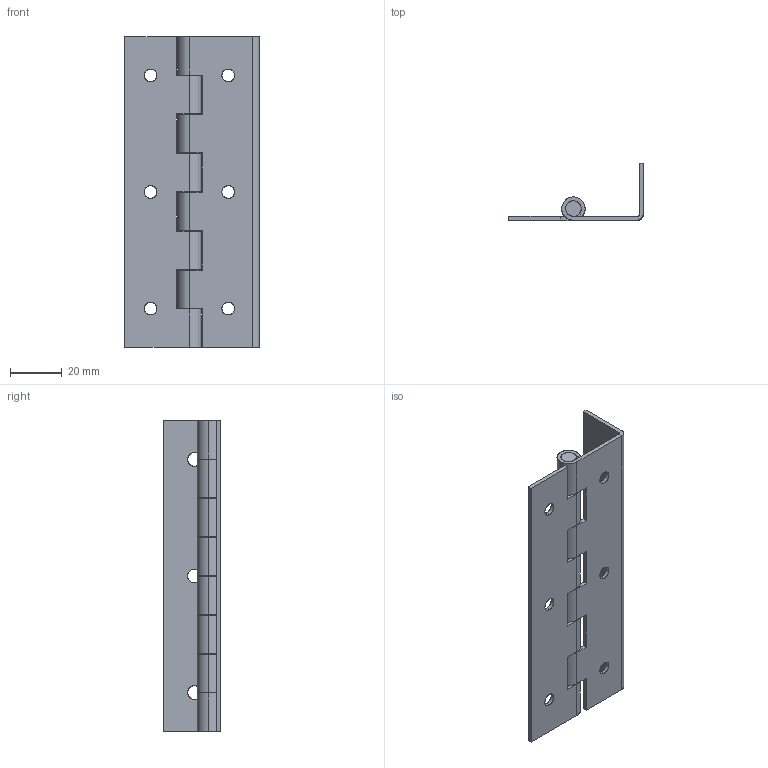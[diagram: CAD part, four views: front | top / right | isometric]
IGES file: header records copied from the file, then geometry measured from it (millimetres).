
Start section: SolidWorks IGES file using analytic representation for surfaces
Global section: file name: C:\Users\cbrechard\Desktop\CL 431.IGS; native system: SolidWorks 2017; preprocessor: SolidWorks 2017; author: cbrechard; date: 190909.120828; units: millimetre
Bounding box: 52 x 22 x 120 mm (x, y, z)
Surface area: 24468.7 mm2 (no closed solid volume)
Topology: 0 solids, 0 shells, 114 faces, 2076 edges, 2076 vertices
Faces by surface type: revolution 70, bspline 44
